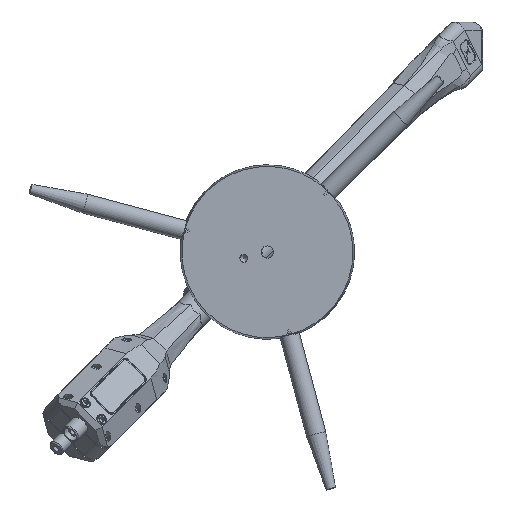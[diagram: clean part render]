
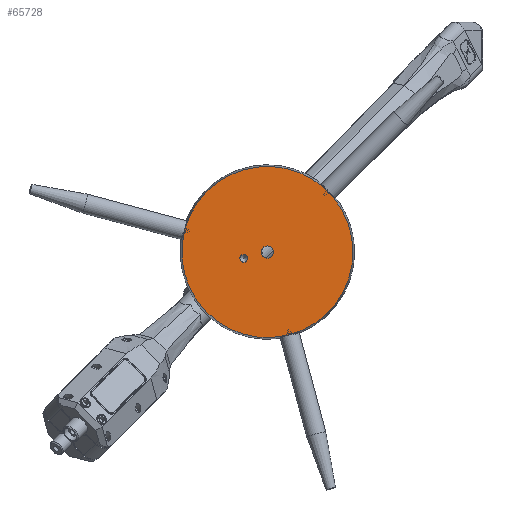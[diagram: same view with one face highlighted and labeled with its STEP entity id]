
A CAD part, front view. The second image highlights one B-rep face of the part: STEP entity #65728.
In plain terms, the highlighted planar face has unit normal (0, -1, 0) as drawn and (0, 0, 1) by its records, which use the part's own axes.
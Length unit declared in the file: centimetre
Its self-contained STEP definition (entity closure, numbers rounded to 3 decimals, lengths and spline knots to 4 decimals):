
#14161=PLANE('',#78486);
#19594=VERTEX_POINT('',#84386);
#19607=VERTEX_POINT('',#84627);
#19609=VERTEX_POINT('',#84632);
#26272=CIRCLE('',#78464,3.5);
#26278=CIRCLE('',#78479,0.1621);
#26280=CIRCLE('',#78482,0.2489);
#27053=EDGE_CURVE('',#19594,#19594,#26272,.T.);
#27068=EDGE_CURVE('',#19607,#19607,#26278,.T.);
#27070=EDGE_CURVE('',#19609,#19609,#26280,.T.);
#37497=ORIENTED_EDGE('',*,*,#27053,.T.);
#37498=ORIENTED_EDGE('',*,*,#27068,.T.);
#37499=ORIENTED_EDGE('',*,*,#27070,.T.);
#57576=EDGE_LOOP('',(#37497));
#57577=EDGE_LOOP('',(#37498));
#57578=EDGE_LOOP('',(#37499));
#61669=FACE_BOUND('',#57576,.T.);
#61670=FACE_BOUND('',#57577,.T.);
#61671=FACE_BOUND('',#57578,.T.);
#65728=ADVANCED_FACE('',(#61669,#61670,#61671),#14161,.T.);
#69696=DIRECTION('',(0.,0.,1.));
#69697=DIRECTION('',(3.5,0.,0.));
#69723=DIRECTION('',(0.,0.,-1.));
#69724=DIRECTION('',(0.,0.162,0.));
#69729=DIRECTION('',(0.,0.,-1.));
#69730=DIRECTION('',(0.,0.249,0.));
#69736=DIRECTION('',(0.,0.,1.));
#78464=AXIS2_PLACEMENT_3D('',#84385,#69696,#69697);
#78479=AXIS2_PLACEMENT_3D('',#84626,#69723,#69724);
#78482=AXIS2_PLACEMENT_3D('',#84631,#69729,#69730);
#78486=AXIS2_PLACEMENT_3D('',#84636,#69736,$);
#84385=CARTESIAN_POINT('',(0.,0.,0.8));
#84386=CARTESIAN_POINT('',(-1.75,-3.0311,0.8));
#84626=CARTESIAN_POINT('',(0.,-1.,0.8));
#84627=CARTESIAN_POINT('',(0.,-0.8379,0.8));
#84631=CARTESIAN_POINT('',(0.,0.,0.8));
#84632=CARTESIAN_POINT('',(0.,0.2489,0.8));
#84636=CARTESIAN_POINT('',(0.,0.,0.8));
